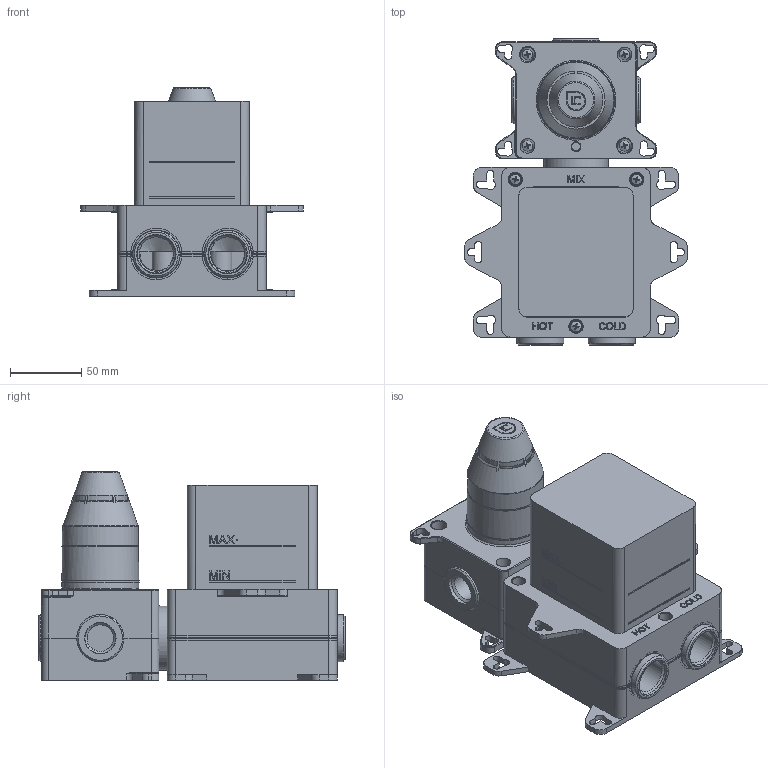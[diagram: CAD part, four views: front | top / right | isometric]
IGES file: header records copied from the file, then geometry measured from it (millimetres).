
Global section: file name: PM0030K; native system: Autodesk Inventor 2017; preprocessor: unknown; author: ROSSETTO; date: 20210802.153708; units: millimetre
Bounding box: 156 x 214.5 x 146.2 mm (x, y, z)
Volume: 930081.3 mm3; surface area: 345452.1 mm2
Topology: 5 solids, 5 shells, 2271 faces, 6333 edges, 4102 vertices
Faces by surface type: bspline 2271
